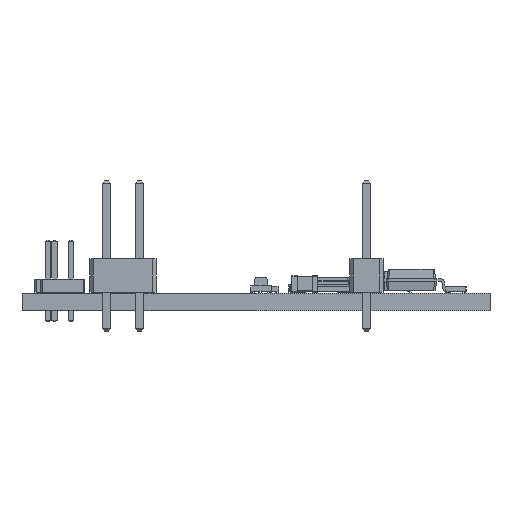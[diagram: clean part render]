
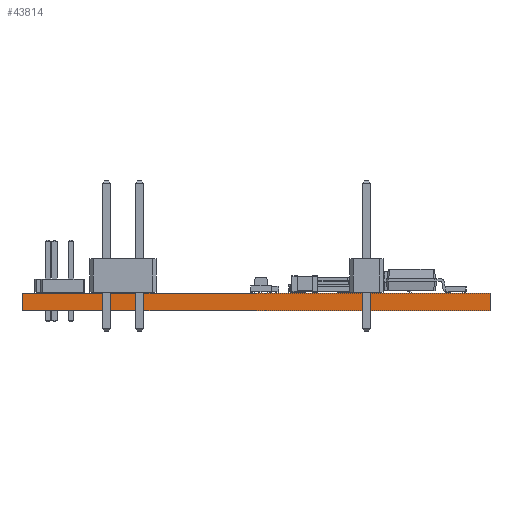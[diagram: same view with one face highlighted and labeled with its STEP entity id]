
A CAD part, front view. The second image highlights one B-rep face of the part: STEP entity #43814.
In plain terms, the highlighted planar face has unit normal (0, -1, 0).
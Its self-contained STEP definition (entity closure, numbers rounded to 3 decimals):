
#43814 = ADVANCED_FACE('',(#43815),#43849,.T.);
#43815 = FACE_BOUND('',#43816,.T.);
#43816 = EDGE_LOOP('',(#43817,#43827,#43835,#43843));
#43817 = ORIENTED_EDGE('',*,*,#43818,.T.);
#43818 = EDGE_CURVE('',#43819,#43821,#43823,.T.);
#43819 = VERTEX_POINT('',#43820);
#43820 = CARTESIAN_POINT('',(36.,-36.,0.));
#43821 = VERTEX_POINT('',#43822);
#43822 = CARTESIAN_POINT('',(36.,-36.,1.37));
#43823 = LINE('',#43824,#43825);
#43824 = CARTESIAN_POINT('',(36.,-36.,0.));
#43825 = VECTOR('',#43826,1.);
#43826 = DIRECTION('',(0.,0.,1.));
#43827 = ORIENTED_EDGE('',*,*,#43828,.T.);
#43828 = EDGE_CURVE('',#43821,#43829,#43831,.T.);
#43829 = VERTEX_POINT('',#43830);
#43830 = CARTESIAN_POINT('',(0.,-36.,1.37));
#43831 = LINE('',#43832,#43833);
#43832 = CARTESIAN_POINT('',(36.,-36.,1.37));
#43833 = VECTOR('',#43834,1.);
#43834 = DIRECTION('',(-1.,0.,0.));
#43835 = ORIENTED_EDGE('',*,*,#43836,.F.);
#43836 = EDGE_CURVE('',#43837,#43829,#43839,.T.);
#43837 = VERTEX_POINT('',#43838);
#43838 = CARTESIAN_POINT('',(0.,-36.,0.));
#43839 = LINE('',#43840,#43841);
#43840 = CARTESIAN_POINT('',(0.,-36.,0.));
#43841 = VECTOR('',#43842,1.);
#43842 = DIRECTION('',(0.,0.,1.));
#43843 = ORIENTED_EDGE('',*,*,#43844,.F.);
#43844 = EDGE_CURVE('',#43819,#43837,#43845,.T.);
#43845 = LINE('',#43846,#43847);
#43846 = CARTESIAN_POINT('',(36.,-36.,0.));
#43847 = VECTOR('',#43848,1.);
#43848 = DIRECTION('',(-1.,0.,0.));
#43849 = PLANE('',#43850);
#43850 = AXIS2_PLACEMENT_3D('',#43851,#43852,#43853);
#43851 = CARTESIAN_POINT('',(36.,-36.,0.));
#43852 = DIRECTION('',(0.,-1.,0.));
#43853 = DIRECTION('',(-1.,0.,0.));
